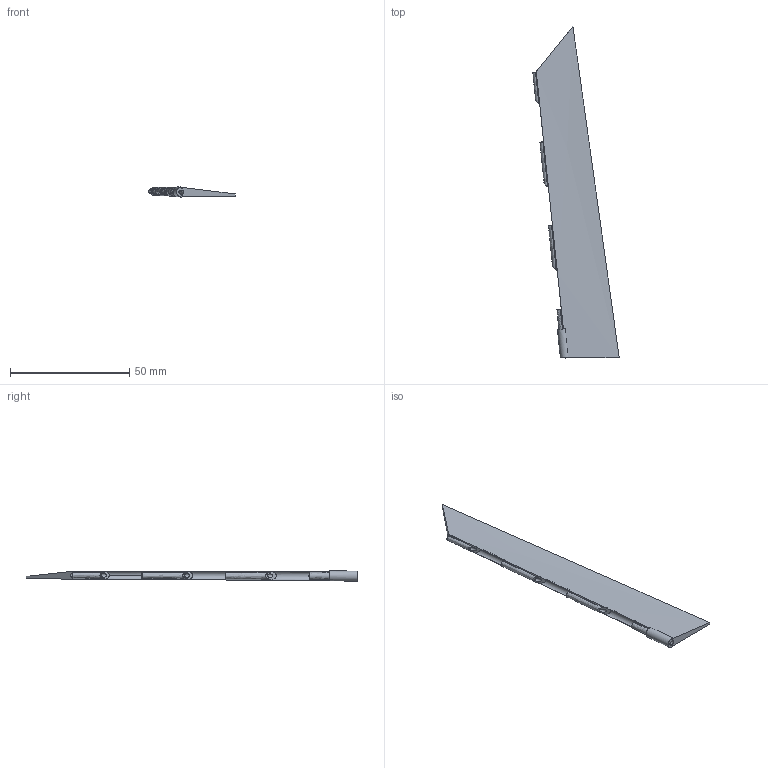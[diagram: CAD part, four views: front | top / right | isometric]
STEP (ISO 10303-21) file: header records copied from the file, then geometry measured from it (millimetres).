
FILE_DESCRIPTION(('SkyG Speed 90B - revision C6B-9 - 2026-10-11','AR-aileron-right'),'2;1');
FILE_NAME('AR-aileron-right_C6B-9','2026-10-10T23:18:28',('Author'),( 'Open CASCADE'),'Open CASCADE STEP processor 7.9','Open CASCADE 7.9' ,'Unknown');
FILE_SCHEMA(('AUTOMOTIVE_DESIGN { 1 0 10303 214 1 1 1 1 }'));
Length unit declared in the file: millimetre
Products named in the file (1): AR-aileron-right C6B-9
Bounding box: 36.2 x 139.16 x 4.23 mm (x, y, z)
Volume: 5197.7 mm3; surface area: 6443.9 mm2
Topology: 1 solids, 1 shells, 44 faces, 127 edges, 85 vertices
Faces by surface type: bspline 17, plane 16, cylinder 10, cone 1
Full cylindrical faces by diameter (mm): 1.6 x4
Entity records: 8112 total; most frequent: CARTESIAN_POINT 6057, ORIENTED_EDGE 254, PCURVE 254, DEFINITIONAL_REPRESENTATION 254, B_SPLINE_CURVE_WITH_KNOTS 250, DIRECTION 218, EDGE_CURVE 127, SURFACE_CURVE 122
